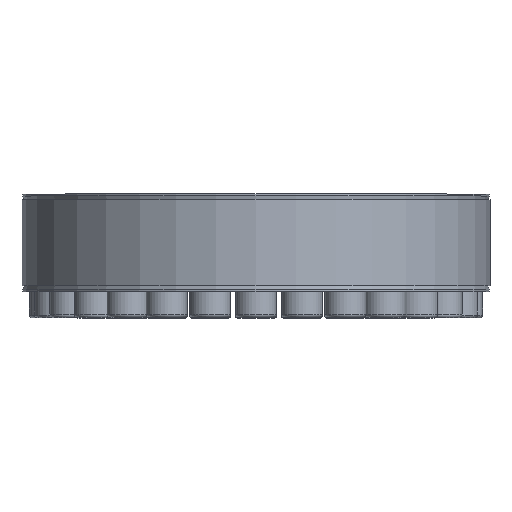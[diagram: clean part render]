
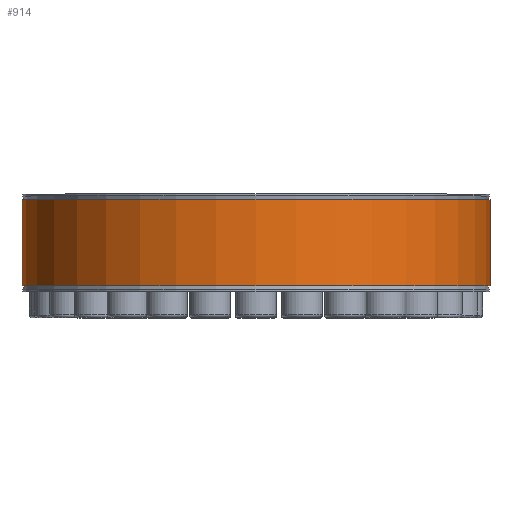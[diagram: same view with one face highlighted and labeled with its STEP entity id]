
A CAD part, top view. The second image highlights one B-rep face of the part: STEP entity #914.
In plain terms, the highlighted cylindrical face has radius 125 mm (diameter 250 mm), a partial arc.
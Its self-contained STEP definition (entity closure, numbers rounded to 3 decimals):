
#914 = ADVANCED_FACE( '', ( #1890 ), #1891, .T. );
#1890 = FACE_OUTER_BOUND( '', #3807, .T. );
#1891 = CYLINDRICAL_SURFACE( '', #3808, 125. );
#3807 = EDGE_LOOP( '', ( #5812, #5813, #5814, #5815 ) );
#3808 = AXIS2_PLACEMENT_3D( '', #5816, #5817, #5818 );
#5812 = ORIENTED_EDGE( '', *, *, #10225, .F. );
#5813 = ORIENTED_EDGE( '', *, *, #10226, .T. );
#5814 = ORIENTED_EDGE( '', *, *, #10227, .T. );
#5815 = ORIENTED_EDGE( '', *, *, #10228, .F. );
#5816 = CARTESIAN_POINT( '', ( 0., -60., 0. ) );
#5817 = DIRECTION( '', ( 0., -1., 0. ) );
#5818 = DIRECTION( '', ( 0., 0., 1. ) );
#10225 = EDGE_CURVE( '', #11428, #11429, #11430, .F. );
#10226 = EDGE_CURVE( '', #11428, #11431, #11432, .T. );
#10227 = EDGE_CURVE( '', #11431, #11433, #11434, .F. );
#10228 = EDGE_CURVE( '', #11429, #11433, #11435, .T. );
#11428 = VERTEX_POINT( '', #13228 );
#11429 = VERTEX_POINT( '', #13229 );
#11430 = LINE( '', #13230, #13231 );
#11431 = VERTEX_POINT( '', #13232 );
#11432 = CIRCLE( '', #13233, 125. );
#11433 = VERTEX_POINT( '', #13234 );
#11434 = LINE( '', #13235, #13236 );
#11435 = CIRCLE( '', #13237, 125. );
#13228 = CARTESIAN_POINT( '', ( 2.083, 23., -124.983 ) );
#13229 = CARTESIAN_POINT( '', ( 2.083, -23., -124.983 ) );
#13230 = CARTESIAN_POINT( '', ( 2.083, -60., -124.983 ) );
#13231 = VECTOR( '', #16969, 1000. );
#13232 = CARTESIAN_POINT( '', ( -2.083, 23., -124.983 ) );
#13233 = AXIS2_PLACEMENT_3D( '', #16970, #16971, #16972 );
#13234 = CARTESIAN_POINT( '', ( -2.083, -23., -124.983 ) );
#13235 = CARTESIAN_POINT( '', ( -2.083, -60., -124.983 ) );
#13236 = VECTOR( '', #16973, 1000. );
#13237 = AXIS2_PLACEMENT_3D( '', #16974, #16975, #16976 );
#16969 = DIRECTION( '', ( 0., 1., 0. ) );
#16970 = CARTESIAN_POINT( '', ( 0., 23., 0. ) );
#16971 = DIRECTION( '', ( 0., -1., 0. ) );
#16972 = DIRECTION( '', ( 0., 0., -1. ) );
#16973 = DIRECTION( '', ( 0., 1., 0. ) );
#16974 = CARTESIAN_POINT( '', ( 0., -23., 0. ) );
#16975 = DIRECTION( '', ( 0., -1., 0. ) );
#16976 = DIRECTION( '', ( 0., 0., -1. ) );
